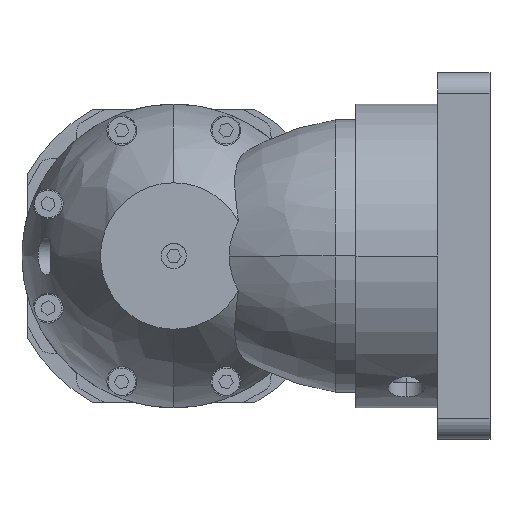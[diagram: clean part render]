
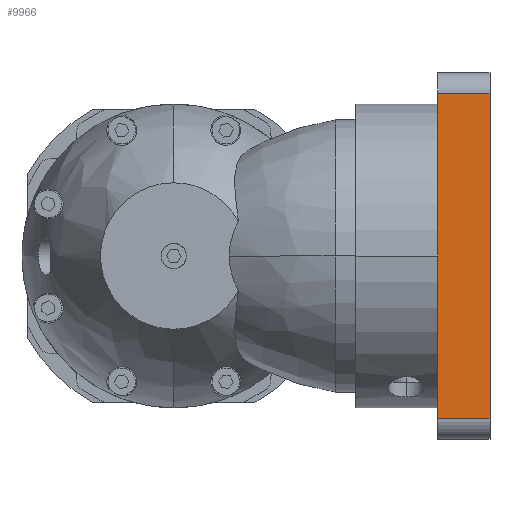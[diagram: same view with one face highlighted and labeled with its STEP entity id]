
A CAD part, left-side view. The second image highlights one B-rep face of the part: STEP entity #9966.
In plain terms, the highlighted planar face has unit normal (-1, 0, 0).
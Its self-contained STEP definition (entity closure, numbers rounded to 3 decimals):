
#670 = CARTESIAN_POINT ( 'NONE',  ( -87.5, -151., 77.5 ) ) ;
#767 = EDGE_LOOP ( 'NONE', ( #7790, #13597, #12212, #2385 ) ) ;
#799 = EDGE_CURVE ( 'NONE', #14522, #5258, #10822, .T. ) ;
#965 = LINE ( 'NONE', #15230, #1149 ) ;
#1149 = VECTOR ( 'NONE', #7860, 1000. ) ;
#2385 = ORIENTED_EDGE ( 'NONE', *, *, #3502, .F. ) ;
#3502 = EDGE_CURVE ( 'NONE', #11399, #5090, #965, .T. ) ;
#3812 = VECTOR ( 'NONE', #7576, 1000. ) ;
#4796 = DIRECTION ( 'NONE',  ( 0., 1., 0. ) ) ;
#4910 = PLANE ( 'NONE',  #7202 ) ;
#5090 = VERTEX_POINT ( 'NONE', #12486 ) ;
#5258 = VERTEX_POINT ( 'NONE', #9066 ) ;
#5457 = CARTESIAN_POINT ( 'NONE',  ( -87.5, -151., 77.5 ) ) ;
#5735 = DIRECTION ( 'NONE',  ( 0., 0., -1. ) ) ;
#6749 = EDGE_CURVE ( 'NONE', #5258, #11399, #10480, .T. ) ;
#6801 = CARTESIAN_POINT ( 'NONE',  ( -87.5, -151., -77.5 ) ) ;
#7202 = AXIS2_PLACEMENT_3D ( 'NONE', #9804, #14885, #4796 ) ;
#7216 = DIRECTION ( 'NONE',  ( 0., 1., 0. ) ) ;
#7576 = DIRECTION ( 'NONE',  ( 0., -1., 0. ) ) ;
#7790 = ORIENTED_EDGE ( 'NONE', *, *, #6749, .F. ) ;
#7860 = DIRECTION ( 'NONE',  ( 0., 0., 1. ) ) ;
#7901 = CARTESIAN_POINT ( 'NONE',  ( -87.5, -126., -77.5 ) ) ;
#8786 = CARTESIAN_POINT ( 'NONE',  ( -87.5, -151., 77.5 ) ) ;
#9066 = CARTESIAN_POINT ( 'NONE',  ( -87.5, -151., -77.5 ) ) ;
#9804 = CARTESIAN_POINT ( 'NONE',  ( -87.5, -151., 77.5 ) ) ;
#9966 = ADVANCED_FACE ( 'NONE', ( #13690 ), #4910, .F. ) ;
#10375 = LINE ( 'NONE', #8786, #3812 ) ;
#10480 = LINE ( 'NONE', #6801, #11033 ) ;
#10822 = LINE ( 'NONE', #670, #13179 ) ;
#11033 = VECTOR ( 'NONE', #7216, 1000. ) ;
#11302 = EDGE_CURVE ( 'NONE', #5090, #14522, #10375, .T. ) ;
#11399 = VERTEX_POINT ( 'NONE', #7901 ) ;
#12212 = ORIENTED_EDGE ( 'NONE', *, *, #11302, .F. ) ;
#12486 = CARTESIAN_POINT ( 'NONE',  ( -87.5, -126., 77.5 ) ) ;
#13179 = VECTOR ( 'NONE', #5735, 1000. ) ;
#13597 = ORIENTED_EDGE ( 'NONE', *, *, #799, .F. ) ;
#13690 = FACE_OUTER_BOUND ( 'NONE', #767, .T. ) ;
#14522 = VERTEX_POINT ( 'NONE', #5457 ) ;
#14885 = DIRECTION ( 'NONE',  ( 1., 0., 0. ) ) ;
#15230 = CARTESIAN_POINT ( 'NONE',  ( -87.5, -126., 77.5 ) ) ;
